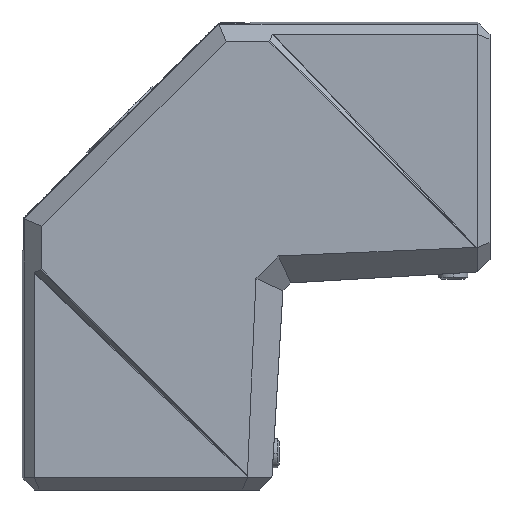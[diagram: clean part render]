
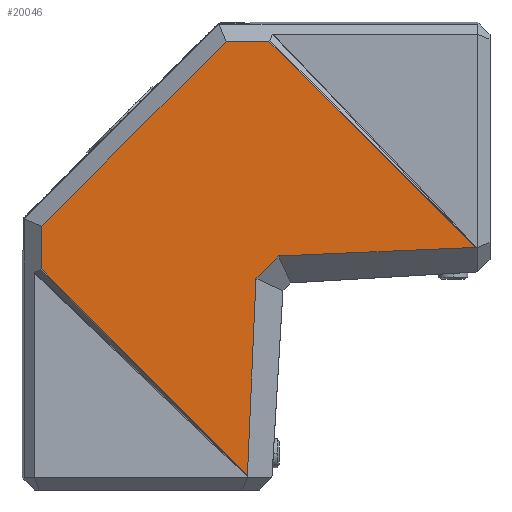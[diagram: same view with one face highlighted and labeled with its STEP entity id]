
A CAD part, left-side view. The second image highlights one B-rep face of the part: STEP entity #20046.
In plain terms, the highlighted planar face has unit normal (-1, -0.016, -0.016).
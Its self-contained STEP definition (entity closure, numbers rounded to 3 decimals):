
#3633=CARTESIAN_POINT('',(-53.756,-49.801,
43.244));
#3736=CARTESIAN_POINT('',(-51.04,-134.044,
-40.999));
#3758=DIRECTION('',(0.015,-0.999,0.043));
#3759=VECTOR('',#3758,80.41);
#3760=CARTESIAN_POINT('',(-52.279,-53.719,
-44.483));
#3761=LINE('',#3760,#3759);
#3786=DIRECTION('',(-0.023,0.707,0.707));
#3787=VECTOR('',#3786,119.168);
#3788=CARTESIAN_POINT('',(-51.04,-40.999,
-134.044));
#3789=LINE('',#3788,#3787);
#3793=DIRECTION('',(-0.016,-0.016,1.));
#3794=VECTOR('',#3793,17.478);
#3795=CARTESIAN_POINT('',(-53.756,43.244,
-49.801));
#3796=LINE('',#3795,#3794);
#3800=DIRECTION('',(0.,-0.707,0.707));
#3801=VECTOR('',#3800,106.482);
#3802=CARTESIAN_POINT('',(-54.033,42.967,
-32.328));
#3803=LINE('',#3802,#3801);
#3807=DIRECTION('',(-0.016,1.,-0.016));
#3808=VECTOR('',#3807,17.478);
#3809=CARTESIAN_POINT('',(-53.756,-49.801,
43.244));
#3810=LINE('',#3809,#3808);
#3814=DIRECTION('',(0.023,-0.707,-0.707));
#3815=VECTOR('',#3814,119.168);
#3816=CARTESIAN_POINT('',(-53.756,-49.801,
43.244));
#3817=LINE('',#3816,#3815);
#3821=DIRECTION('',(0.,0.707,-0.707));
#3822=VECTOR('',#3821,13.061);
#3823=CARTESIAN_POINT('',(-52.279,-53.719,
-44.483));
#3824=LINE('',#3823,#3822);
#3839=CARTESIAN_POINT('',(-53.756,43.244,
-49.801));
#3948=DIRECTION('',(-0.015,-0.043,0.999));
#3949=VECTOR('',#3948,80.41);
#3950=CARTESIAN_POINT('',(-51.04,-40.999,
-134.044));
#3951=LINE('',#3950,#3949);
#14186=CARTESIAN_POINT('',(-52.279,-53.719,
-44.483));
#14187=CARTESIAN_POINT('',(-52.279,-44.483,
-53.719));
#14188=VERTEX_POINT('',#14186);
#14189=VERTEX_POINT('',#14187);
#14329=CARTESIAN_POINT('',(-54.033,42.967,
-32.328));
#14330=CARTESIAN_POINT('',(-54.033,-32.328,
42.967));
#14331=VERTEX_POINT('',#14329);
#14332=VERTEX_POINT('',#14330);
#14462=VERTEX_POINT('',#3839);
#14463=CARTESIAN_POINT('',(-51.04,-40.999,
-134.044));
#14464=VERTEX_POINT('',#14463);
#14467=VERTEX_POINT('',#3633);
#14472=VERTEX_POINT('',#3736);
#20026=CARTESIAN_POINT('',(-54.217,57.669,
-35.669));
#20027=DIRECTION('',(-1.,-0.016,-0.016));
#20028=DIRECTION('',(0.023,-0.707,-0.707));
#20029=AXIS2_PLACEMENT_3D('',#20026,#20027,#20028);
#20030=PLANE('',#20029);
#20032=ORIENTED_EDGE('',*,*,#20031,.T.);
#20034=ORIENTED_EDGE('',*,*,#20033,.T.);
#20036=ORIENTED_EDGE('',*,*,#20035,.T.);
#20037=ORIENTED_EDGE('',*,*,#19727,.F.);
#20038=ORIENTED_EDGE('',*,*,#19986,.T.);
#20039=ORIENTED_EDGE('',*,*,#19959,.F.);
#20041=ORIENTED_EDGE('',*,*,#20040,.T.);
#20043=ORIENTED_EDGE('',*,*,#20042,.F.);
#20044=EDGE_LOOP('',(#20032,#20034,#20036,#20037,#20038,#20039,#20041,#20043));
#20045=FACE_OUTER_BOUND('',#20044,.F.);
#19727=EDGE_CURVE('',#14467,#14332,#3810,.T.);
#19959=EDGE_CURVE('',#14188,#14472,#3761,.T.);
#19986=EDGE_CURVE('',#14467,#14472,#3817,.T.);
#20031=EDGE_CURVE('',#14464,#14462,#3789,.T.);
#20033=EDGE_CURVE('',#14462,#14331,#3796,.T.);
#20035=EDGE_CURVE('',#14331,#14332,#3803,.T.);
#20040=EDGE_CURVE('',#14188,#14189,#3824,.T.);
#20042=EDGE_CURVE('',#14464,#14189,#3951,.T.);
#20046=ADVANCED_FACE('',(#20045),#20030,.T.);
